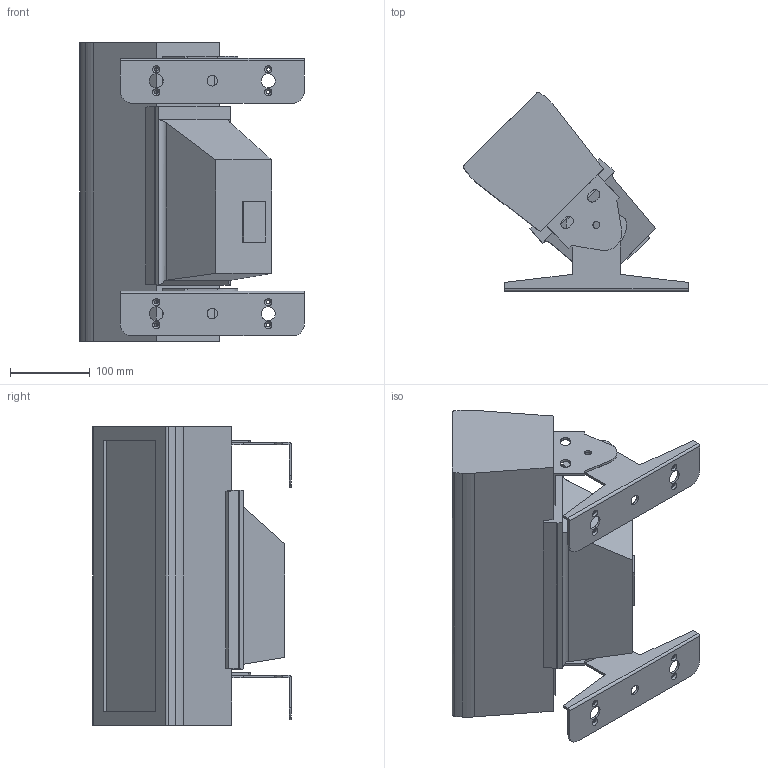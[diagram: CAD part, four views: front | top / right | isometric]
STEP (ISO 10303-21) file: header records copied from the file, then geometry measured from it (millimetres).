
FILE_DESCRIPTION(/* description */ (''),/* implementation_level */ '2;1');
FILE_NAME(/* name */ 'D:/dgooch/Documents/CADENG/PRO/Colorado Solo Batten 4/45/ColoradoSoloBatten4_45.step',/* time_stamp */ '2019-03-22T11:22:59-04:00',/* author */ ('dgooch'),/* organization */ (''),/* preprocessor_version */ 'ST-DEVELOPER v17.2',/* originating_system */ 'Autodesk Translation Framework v7.6.0.251',/* authorisation */ '');
FILE_SCHEMA (('AUTOMOTIVE_DESIGN { 1 0 10303 214 3 1 1 }'));
Length unit declared in the file: millimetre
Products named in the file (8): ColoradoSoloBatten4; Bracket; RD-SS356-040-A_1 (2); RD-SS356-036-B_3 (2); Bracket2; RD-SS356-040-A_1 (1); RD-SS356-036-B_3 (1); Main
Assembly tree (7 placements, depth 3):
  ColoradoSoloBatten4
    Bracket
      RD-SS356-040-A_1 (2)
      RD-SS356-036-B_3 (2)
    Bracket2
      RD-SS356-040-A_1 (1)
      RD-SS356-036-B_3 (1)
    Main
Bounding box: 280.76 x 248.56 x 373.2 mm (x, y, z)
Volume: 7927905 mm3; surface area: 383490.9 mm2
Topology: 3 solids, 3 shells, 148 faces, 424 edges, 286 vertices
Faces by surface type: plane 84, cylinder 54, cone 8, bspline 2
Full cylindrical faces by diameter (mm): 4.5 x8, 8.5 x4, 13 x2, 17.5 x4
Entity records: 5275 total; most frequent: CARTESIAN_POINT 963, DIRECTION 878, ORIENTED_EDGE 848, EDGE_CURVE 424, AXIS2_PLACEMENT_3D 297, VERTEX_POINT 286, LINE 284, VECTOR 284
